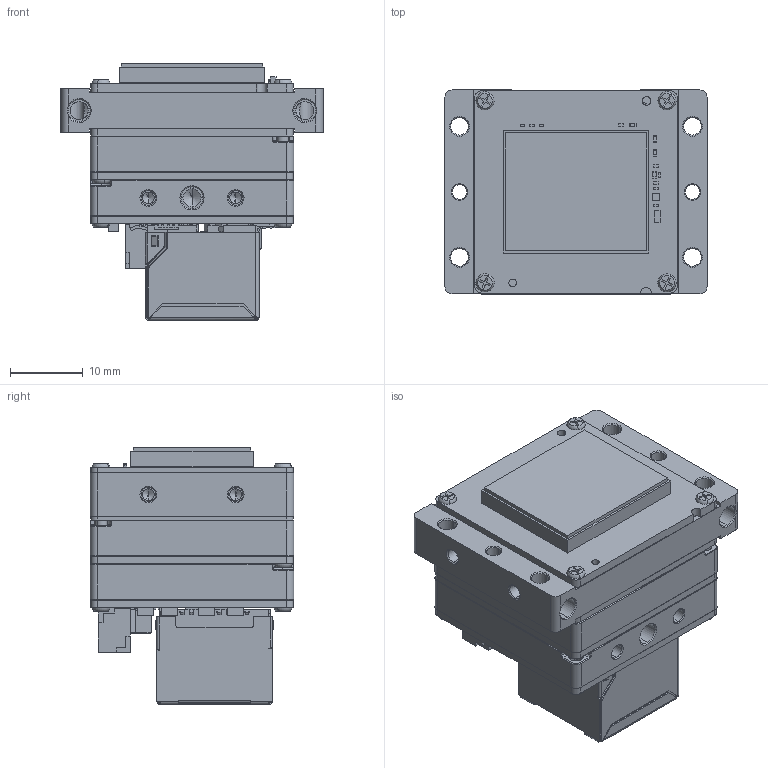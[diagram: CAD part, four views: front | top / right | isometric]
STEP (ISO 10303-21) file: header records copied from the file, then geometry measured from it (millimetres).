
FILE_DESCRIPTION (( 'STEP AP203' ), '1' );
FILE_NAME ('431-618-A.STEP', '2023-03-01T18:35:29', ( '' ), ( '' ), 'SwSTEP 2.0', 'SolidWorks 2021', '' );
FILE_SCHEMA (( 'CONFIG_CONTROL_DESIGN' ));
Length unit declared in the file: millimetre
Products named in the file (1): 431-618-A
Bounding box: 36 x 28 x 35.3 mm (x, y, z)
Volume: 9730.8 mm3; surface area: 21309.2 mm2
Topology: 67 solids, 67 shells, 4615 faces, 12108 edges, 7520 vertices
Faces by surface type: plane 2795, cylinder 1171, bspline 281, cone 223, torus 77, sphere 68
Entity records: 143934 total; most frequent: CARTESIAN_POINT 31689, ORIENTED_EDGE 23832, DIRECTION 22537, EDGE_CURVE 11916, VECTOR 8797, LINE 8797, VERTEX_POINT 7514, AXIS2_PLACEMENT_3D 6870
